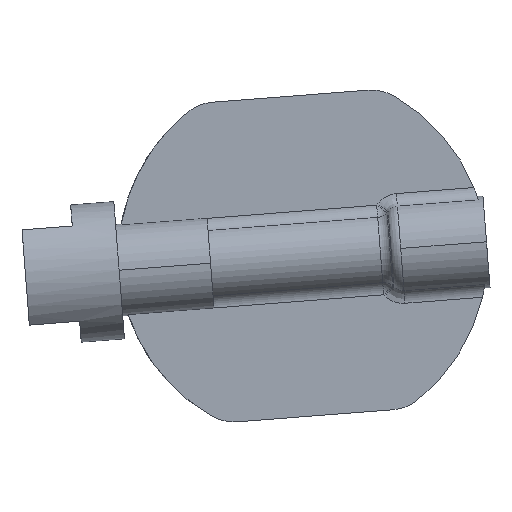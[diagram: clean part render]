
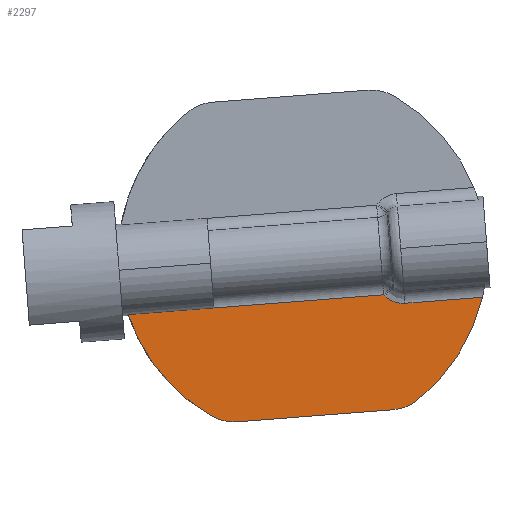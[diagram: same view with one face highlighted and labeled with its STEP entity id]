
A CAD part, front view. The second image highlights one B-rep face of the part: STEP entity #2297.
In plain terms, the highlighted planar face has unit normal (0, -1, 0).
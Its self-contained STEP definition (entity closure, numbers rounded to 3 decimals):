
#45=DIRECTION('',(0.997,0.,0.077));
#46=VECTOR('',#45,8.462);
#47=CARTESIAN_POINT('',(587.243,-1.,-148.21));
#48=LINE('',#47,#46);
#49=CARTESIAN_POINT('',(585.524,-1.,-154.841));
#50=DIRECTION('',(0.,-1.,0.));
#51=DIRECTION('',(0.077,0.,-0.997));
#52=AXIS2_PLACEMENT_3D('',#49,#50,#51);
#54=DIRECTION('',(-0.997,0.,-0.077));
#55=VECTOR('',#54,16.971);
#56=CARTESIAN_POINT('',(585.91,-1.,-159.826));
#57=LINE('',#56,#55);
#58=CARTESIAN_POINT('',(568.604,-1.,-156.151));
#59=DIRECTION('',(0.,-1.,0.));
#60=DIRECTION('',(-0.497,0.,-0.868));
#61=AXIS2_PLACEMENT_3D('',#58,#59,#60);
#63=DIRECTION('',(-0.997,0.,-0.077));
#64=VECTOR('',#63,9.394);
#65=CARTESIAN_POINT('',(566.419,-1.,-148.719));
#66=LINE('',#65,#64);
#67=DIRECTION('',(0.997,0.,0.077));
#68=VECTOR('',#67,18.559);
#69=CARTESIAN_POINT('',(566.419,-1.,-148.719));
#70=LINE('',#69,#68);
#71=CARTESIAN_POINT('',(584.922,-1.,-147.285));
#72=CARTESIAN_POINT('',(584.937,-1.,-147.299));
#73=CARTESIAN_POINT('',(584.966,-1.,-147.328));
#74=CARTESIAN_POINT('',(585.01,-1.,-147.37));
#75=CARTESIAN_POINT('',(585.039,-1.,-147.397));
#76=CARTESIAN_POINT('',(585.053,-1.,-147.411));
#78=CARTESIAN_POINT('',(585.053,-1.,-147.411));
#79=CARTESIAN_POINT('',(585.137,-1.,-147.491));
#80=CARTESIAN_POINT('',(585.311,-1.,-147.639));
#81=CARTESIAN_POINT('',(585.592,-1.,-147.829));
#82=CARTESIAN_POINT('',(585.895,-1.,-147.984));
#83=CARTESIAN_POINT('',(586.204,-1.,-148.1));
#84=CARTESIAN_POINT('',(586.533,-1.,-148.181));
#85=CARTESIAN_POINT('',(586.885,-1.,-148.222));
#86=CARTESIAN_POINT('',(587.122,-1.,-148.219));
#87=CARTESIAN_POINT('',(587.243,-1.,-148.21));
#229=CARTESIAN_POINT('',(576.1,-1.,-143.055));
#230=DIRECTION('',(0.,-1.,0.));
#231=DIRECTION('',(0.625,0.,-0.781));
#232=AXIS2_PLACEMENT_3D('',#229,#230,#231);
#1735=CARTESIAN_POINT('',(576.1,-1.,-143.055));
#1736=DIRECTION('',(0.,-1.,0.));
#1737=DIRECTION('',(-0.948,0.,-0.318));
#1738=AXIS2_PLACEMENT_3D('',#1735,#1736,#1737);
#1840=CARTESIAN_POINT('',(585.91,-1.,-159.826));
#1841=CARTESIAN_POINT('',(588.646,-1.,-158.746));
#1842=VERTEX_POINT('',#1840);
#1843=VERTEX_POINT('',#1841);
#1856=CARTESIAN_POINT('',(566.12,-1.,-160.491));
#1857=CARTESIAN_POINT('',(568.99,-1.,-161.137));
#1858=VERTEX_POINT('',#1856);
#1859=VERTEX_POINT('',#1857);
#1874=CARTESIAN_POINT('',(557.053,-1.,-149.444));
#1875=VERTEX_POINT('',#1874);
#1898=CARTESIAN_POINT('',(587.243,-1.,-148.21));
#1899=CARTESIAN_POINT('',(595.679,-1.,-147.556));
#1900=VERTEX_POINT('',#1898);
#1901=VERTEX_POINT('',#1899);
#1906=VERTEX_POINT('',#78);
#1908=VERTEX_POINT('',#71);
#1912=CARTESIAN_POINT('',(566.419,-1.,-148.719));
#1914=VERTEX_POINT('',#1912);
#2270=CARTESIAN_POINT('',(0.,-1.,0.));
#2271=DIRECTION('',(0.,1.,0.));
#2272=DIRECTION('',(1.,0.,0.));
#2273=AXIS2_PLACEMENT_3D('',#2270,#2271,#2272);
#2274=PLANE('',#2273);
#2276=ORIENTED_EDGE('',*,*,#2275,.T.);
#2278=ORIENTED_EDGE('',*,*,#2277,.F.);
#2280=ORIENTED_EDGE('',*,*,#2279,.F.);
#2282=ORIENTED_EDGE('',*,*,#2281,.T.);
#2284=ORIENTED_EDGE('',*,*,#2283,.F.);
#2286=ORIENTED_EDGE('',*,*,#2285,.F.);
#2288=ORIENTED_EDGE('',*,*,#2287,.F.);
#2290=ORIENTED_EDGE('',*,*,#2289,.T.);
#2292=ORIENTED_EDGE('',*,*,#2291,.T.);
#2294=ORIENTED_EDGE('',*,*,#2293,.T.);
#2295=EDGE_LOOP('',(#2276,#2278,#2280,#2282,#2284,#2286,#2288,#2290,#2292,
#2294));
#2296=FACE_OUTER_BOUND('',#2295,.F.);
#2297=ADVANCED_FACE('',(#2296),#2274,.F.);
#53=CIRCLE('',#52,5.);
#62=CIRCLE('',#61,5.);
#77=B_SPLINE_CURVE_WITH_KNOTS('',3,(#71,#72,#73,#74,#75,#76),.UNSPECIFIED.,.F.,
.F.,(4,1,1,4),(0.,0.333,0.667,1.),.UNSPECIFIED.);
#88=B_SPLINE_CURVE_WITH_KNOTS('',3,(#78,#79,#80,#81,#82,#83,#84,#85,#86,#87),
.UNSPECIFIED.,.F.,.F.,(4,1,1,1,1,1,1,4),(0.,0.143,
0.286,0.429,0.571,0.714,
0.857,1.),.UNSPECIFIED.);
#233=CIRCLE('',#232,20.09);
#1739=CIRCLE('',#1738,20.09);
#2275=EDGE_CURVE('',#1900,#1901,#48,.T.);
#2277=EDGE_CURVE('',#1843,#1901,#233,.T.);
#2279=EDGE_CURVE('',#1842,#1843,#53,.T.);
#2281=EDGE_CURVE('',#1842,#1859,#57,.T.);
#2283=EDGE_CURVE('',#1858,#1859,#62,.T.);
#2285=EDGE_CURVE('',#1875,#1858,#1739,.T.);
#2287=EDGE_CURVE('',#1914,#1875,#66,.T.);
#2289=EDGE_CURVE('',#1914,#1908,#70,.T.);
#2291=EDGE_CURVE('',#1908,#1906,#77,.T.);
#2293=EDGE_CURVE('',#1906,#1900,#88,.T.);
